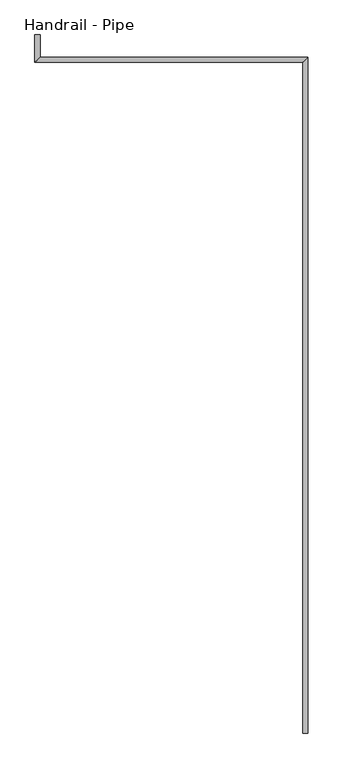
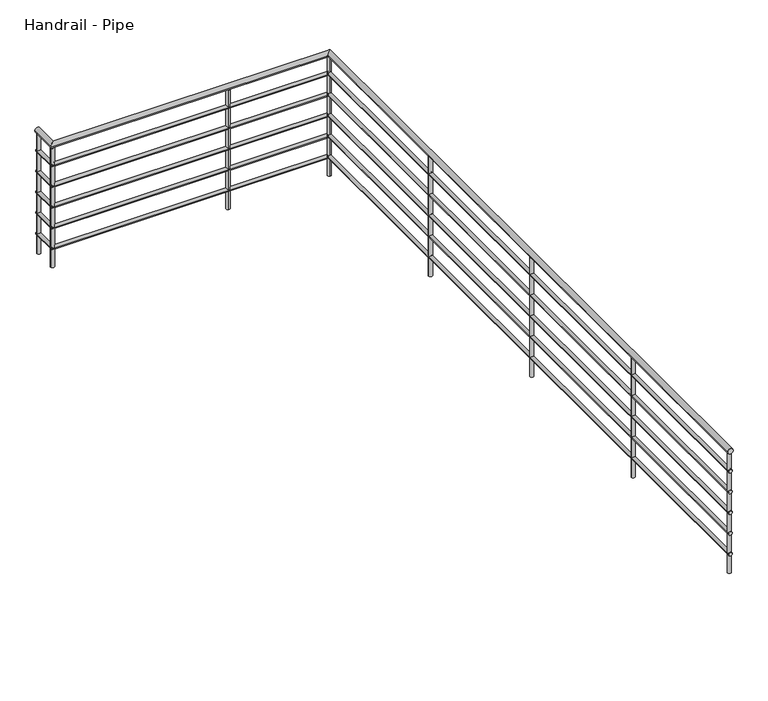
"""IFC4 building model written with IfcOpenShell, lengths in millimetres: railing geometry, Handrail - Pipe."""

from ifc_helpers import new_model, si_unit, point, frame, frame_2d, origin, origin_with_axes, place, context, project, spatial, circle_curve, ellipse_curve, trimmed, segment, composite_curve, outline, extrude, source, transform, mapped, element, save
from ifc_brep_helpers import plane_surface, cylinder_surface, advanced_brep


def handrail_pipe_65aaea4b(model_context):
    return source(origin(), model_context, "Body", "SolidModel", [
        advanced_brep(
        [(13284.4921922, 17749.6862109, 895.35), (13322.5921922, 17749.6862109, 895.35), (13322.5921922, 17590.9362109, 895.35), (13284.4921922, 17552.8362109, 895.35), (15245.312245, 17590.9362109, 895.35), (15207.212245, 17552.8362109, 895.35), (15207.212245, 12744.2987109, 895.35), (15245.312245, 12744.2987109, 895.35)],
        [
            (0, 1, circle_curve(frame((13303.5421922, 17749.6862109, 895.35), z_axis=(0.0, 1.0, 0.0), x_axis=(1.0, 0.0, 0.0)), 19.05)),
            (1, 0, circle_curve(frame((13303.5421922, 17749.6862109, 895.35), z_axis=(0.0, 1.0, 0.0), x_axis=(1.0, 0.0, 0.0)), 19.05)),
            (1, 2),
            (2, 3, ellipse_curve(frame((13303.5421922, 17571.8862109, 895.35), z_axis=(-0.707106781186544, 0.707106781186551, 0.0), x_axis=(0.707106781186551, 0.707106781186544, 0.0)), 26.9407684, 19.05)),
            (3, 0),
            (3, 2, ellipse_curve(frame((13303.5421922, 17571.8862109, 895.35), z_axis=(-0.707106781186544, 0.707106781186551, 0.0), x_axis=(0.707106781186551, 0.707106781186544, 0.0)), 26.9407684, 19.05)),
            (2, 4),
            (4, 5, ellipse_curve(frame((15226.262245, 17571.8862109, 895.35), z_axis=(-0.7071067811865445, 0.7071067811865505, 0.0), x_axis=(-0.7071067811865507, -0.7071067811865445, 0.0)), 26.9407684, 19.05)),
            (5, 3),
            (5, 4, ellipse_curve(frame((15226.262245, 17571.8862109, 895.35), z_axis=(-0.7071067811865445, 0.7071067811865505, 0.0), x_axis=(-0.7071067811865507, -0.7071067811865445, 0.0)), 26.9407684, 19.05)),
            (6, 7, circle_curve(frame((15226.262245, 12744.2987109, 895.35), z_axis=(0.0, -1.0, 0.0), x_axis=(1.0, 0.0, 0.0)), 19.05)),
            (7, 6, circle_curve(frame((15226.262245, 12744.2987109, 895.35), z_axis=(0.0, -1.0, 0.0), x_axis=(1.0, 0.0, 0.0)), 19.05)),
            (4, 7),
            (6, 5),
        ],
        [
            plane_surface(frame((13303.5421922, 17749.6862109, 914.4), z_axis=(0.0, 1.0, 0.0), x_axis=(0.0, 0.0, -1.0))),
            cylinder_surface(frame((13303.5421922, 17749.6862109, 895.35), z_axis=(0.0, 1.0, 0.0), x_axis=(1.0, 0.0, 0.0)), 19.05),
            cylinder_surface(frame((13303.5421922, 17571.8862109, 895.35), z_axis=(-1.0, 0.0, 0.0), x_axis=(0.0, 1.0, 0.0)), 19.05),
            plane_surface(frame((15226.262245, 12744.2987109, 914.4), z_axis=(0.0, -1.0, 0.0), x_axis=(0.0, 0.0, -1.0))),
            cylinder_surface(frame((15226.262245, 17571.8862109, 895.35), z_axis=(0.0, 1.0, 0.0), x_axis=(1.0, 0.0, 0.0)), 19.05),
        ],
        [
            (0, [[1, 2]]),
            (1, [[-2, 3, 4, 5]]),
            (1, [[-1, -5, 6, -3]]),
            (2, [[-4, 7, 8, 9]]),
            (2, [[-6, -9, 10, -7]]),
            (3, [[11, 12]]),
            (4, [[-8, 13, -11, 14]]),
            (4, [[-10, -14, -12, -13]]),
        ],
    ),
        advanced_brep(
        [(13290.8421922, 17749.6862109, 749.3), (13316.2421922, 17749.6862109, 749.3), (13316.2421922, 17584.5862109, 749.3), (13290.8421922, 17559.1862109, 749.3), (15238.962245, 17584.5862109, 749.3), (15213.562245, 17559.1862109, 749.3), (15213.562245, 12744.2987109, 749.3), (15238.962245, 12744.2987109, 749.3)],
        [
            (0, 1, circle_curve(frame((13303.5421922, 17749.6862109, 749.3), z_axis=(0.0, 1.0, 0.0), x_axis=(1.0, 0.0, 0.0)), 12.7)),
            (1, 0, circle_curve(frame((13303.5421922, 17749.6862109, 749.3), z_axis=(0.0, 1.0, 0.0), x_axis=(1.0, 0.0, 0.0)), 12.7)),
            (1, 2),
            (2, 3, ellipse_curve(frame((13303.5421922, 17571.8862109, 749.3), z_axis=(-0.707106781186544, 0.707106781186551, 0.0), x_axis=(0.707106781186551, 0.707106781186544, 0.0)), 17.9605122, 12.7)),
            (3, 0),
            (3, 2, ellipse_curve(frame((13303.5421922, 17571.8862109, 749.3), z_axis=(-0.707106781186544, 0.707106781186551, 0.0), x_axis=(0.707106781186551, 0.707106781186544, 0.0)), 17.9605122, 12.7)),
            (2, 4),
            (4, 5, ellipse_curve(frame((15226.262245, 17571.8862109, 749.3), z_axis=(-0.7071067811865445, 0.7071067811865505, 0.0), x_axis=(-0.7071067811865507, -0.7071067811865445, 0.0)), 17.9605122, 12.7)),
            (5, 3),
            (5, 4, ellipse_curve(frame((15226.262245, 17571.8862109, 749.3), z_axis=(-0.7071067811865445, 0.7071067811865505, 0.0), x_axis=(-0.7071067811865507, -0.7071067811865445, 0.0)), 17.9605122, 12.7)),
            (6, 7, circle_curve(frame((15226.262245, 12744.2987109, 749.3), z_axis=(0.0, -1.0, 0.0), x_axis=(1.0, 0.0, 0.0)), 12.7)),
            (7, 6, circle_curve(frame((15226.262245, 12744.2987109, 749.3), z_axis=(0.0, -1.0, 0.0), x_axis=(1.0, 0.0, 0.0)), 12.7)),
            (4, 7),
            (6, 5),
        ],
        [
            plane_surface(frame((13303.5421922, 17749.6862109, 762.0), z_axis=(0.0, 1.0, 0.0), x_axis=(0.0, 0.0, -1.0))),
            cylinder_surface(frame((13303.5421922, 17749.6862109, 749.3), z_axis=(0.0, 1.0, 0.0), x_axis=(1.0, 0.0, 0.0)), 12.7),
            cylinder_surface(frame((13303.5421922, 17571.8862109, 749.3), z_axis=(-1.0, 0.0, 0.0), x_axis=(0.0, 1.0, 0.0)), 12.7),
            plane_surface(frame((15226.262245, 12744.2987109, 762.0), z_axis=(0.0, -1.0, 0.0), x_axis=(0.0, 0.0, -1.0))),
            cylinder_surface(frame((15226.262245, 17571.8862109, 749.3), z_axis=(0.0, 1.0, 0.0), x_axis=(1.0, 0.0, 0.0)), 12.7),
        ],
        [
            (0, [[1, 2]]),
            (1, [[-2, 3, 4, 5]]),
            (1, [[-1, -5, 6, -3]]),
            (2, [[-4, 7, 8, 9]]),
            (2, [[-6, -9, 10, -7]]),
            (3, [[11, 12]]),
            (4, [[-8, 13, -11, 14]]),
            (4, [[-10, -14, -12, -13]]),
        ],
    ),
        advanced_brep(
        [(13290.8421922, 17749.6862109, 596.9), (13316.2421922, 17749.6862109, 596.9), (13316.2421922, 17584.5862109, 596.9), (13290.8421922, 17559.1862109, 596.9), (15238.962245, 17584.5862109, 596.9), (15213.562245, 17559.1862109, 596.9), (15213.562245, 12744.2987109, 596.9), (15238.962245, 12744.2987109, 596.9)],
        [
            (0, 1, circle_curve(frame((13303.5421922, 17749.6862109, 596.9), z_axis=(0.0, 1.0, 0.0), x_axis=(1.0, 0.0, 0.0)), 12.7)),
            (1, 0, circle_curve(frame((13303.5421922, 17749.6862109, 596.9), z_axis=(0.0, 1.0, 0.0), x_axis=(1.0, 0.0, 0.0)), 12.7)),
            (1, 2),
            (2, 3, ellipse_curve(frame((13303.5421922, 17571.8862109, 596.9), z_axis=(-0.707106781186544, 0.707106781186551, 0.0), x_axis=(0.707106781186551, 0.707106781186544, 0.0)), 17.9605122, 12.7)),
            (3, 0),
            (3, 2, ellipse_curve(frame((13303.5421922, 17571.8862109, 596.9), z_axis=(-0.707106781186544, 0.707106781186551, 0.0), x_axis=(0.707106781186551, 0.707106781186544, 0.0)), 17.9605122, 12.7)),
            (2, 4),
            (4, 5, ellipse_curve(frame((15226.262245, 17571.8862109, 596.9), z_axis=(-0.7071067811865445, 0.7071067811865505, 0.0), x_axis=(-0.7071067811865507, -0.7071067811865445, 0.0)), 17.9605122, 12.7)),
            (5, 3),
            (5, 4, ellipse_curve(frame((15226.262245, 17571.8862109, 596.9), z_axis=(-0.7071067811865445, 0.7071067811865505, 0.0), x_axis=(-0.7071067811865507, -0.7071067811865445, 0.0)), 17.9605122, 12.7)),
            (6, 7, circle_curve(frame((15226.262245, 12744.2987109, 596.9), z_axis=(0.0, -1.0, 0.0), x_axis=(1.0, 0.0, 0.0)), 12.7)),
            (7, 6, circle_curve(frame((15226.262245, 12744.2987109, 596.9), z_axis=(0.0, -1.0, 0.0), x_axis=(1.0, 0.0, 0.0)), 12.7)),
            (4, 7),
            (6, 5),
        ],
        [
            plane_surface(frame((13303.5421922, 17749.6862109, 609.6), z_axis=(0.0, 1.0, 0.0), x_axis=(0.0, 0.0, -1.0))),
            cylinder_surface(frame((13303.5421922, 17749.6862109, 596.9), z_axis=(0.0, 1.0, 0.0), x_axis=(1.0, 0.0, 0.0)), 12.7),
            cylinder_surface(frame((13303.5421922, 17571.8862109, 596.9), z_axis=(-1.0, 0.0, 0.0), x_axis=(0.0, 1.0, 0.0)), 12.7),
            plane_surface(frame((15226.262245, 12744.2987109, 609.6), z_axis=(0.0, -1.0, 0.0), x_axis=(0.0, 0.0, -1.0))),
            cylinder_surface(frame((15226.262245, 17571.8862109, 596.9), z_axis=(0.0, 1.0, 0.0), x_axis=(1.0, 0.0, 0.0)), 12.7),
        ],
        [
            (0, [[1, 2]]),
            (1, [[-2, 3, 4, 5]]),
            (1, [[-1, -5, 6, -3]]),
            (2, [[-4, 7, 8, 9]]),
            (2, [[-6, -9, 10, -7]]),
            (3, [[11, 12]]),
            (4, [[-8, 13, -11, 14]]),
            (4, [[-10, -14, -12, -13]]),
        ],
    ),
        advanced_brep(
        [(13290.8421922, 17749.6862109, 444.5), (13316.2421922, 17749.6862109, 444.5), (13316.2421922, 17584.5862109, 444.5), (13290.8421922, 17559.1862109, 444.5), (15238.962245, 17584.5862109, 444.5), (15213.562245, 17559.1862109, 444.5), (15213.562245, 12744.2987109, 444.5), (15238.962245, 12744.2987109, 444.5)],
        [
            (0, 1, circle_curve(frame((13303.5421922, 17749.6862109, 444.5), z_axis=(0.0, 1.0, 0.0), x_axis=(1.0, 0.0, 0.0)), 12.7)),
            (1, 0, circle_curve(frame((13303.5421922, 17749.6862109, 444.5), z_axis=(0.0, 1.0, 0.0), x_axis=(1.0, 0.0, 0.0)), 12.7)),
            (1, 2),
            (2, 3, ellipse_curve(frame((13303.5421922, 17571.8862109, 444.5), z_axis=(-0.707106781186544, 0.707106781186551, 0.0), x_axis=(0.707106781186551, 0.707106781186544, 0.0)), 17.9605122, 12.7)),
            (3, 0),
            (3, 2, ellipse_curve(frame((13303.5421922, 17571.8862109, 444.5), z_axis=(-0.707106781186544, 0.707106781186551, 0.0), x_axis=(0.707106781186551, 0.707106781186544, 0.0)), 17.9605122, 12.7)),
            (2, 4),
            (4, 5, ellipse_curve(frame((15226.262245, 17571.8862109, 444.5), z_axis=(-0.7071067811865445, 0.7071067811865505, 0.0), x_axis=(-0.7071067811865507, -0.7071067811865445, 0.0)), 17.9605122, 12.7)),
            (5, 3),
            (5, 4, ellipse_curve(frame((15226.262245, 17571.8862109, 444.5), z_axis=(-0.7071067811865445, 0.7071067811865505, 0.0), x_axis=(-0.7071067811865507, -0.7071067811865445, 0.0)), 17.9605122, 12.7)),
            (6, 7, circle_curve(frame((15226.262245, 12744.2987109, 444.5), z_axis=(0.0, -1.0, 0.0), x_axis=(1.0, 0.0, 0.0)), 12.7)),
            (7, 6, circle_curve(frame((15226.262245, 12744.2987109, 444.5), z_axis=(0.0, -1.0, 0.0), x_axis=(1.0, 0.0, 0.0)), 12.7)),
            (4, 7),
            (6, 5),
        ],
        [
            plane_surface(frame((13303.5421922, 17749.6862109, 457.2), z_axis=(0.0, 1.0, 0.0), x_axis=(0.0, 0.0, -1.0))),
            cylinder_surface(frame((13303.5421922, 17749.6862109, 444.5), z_axis=(0.0, 1.0, 0.0), x_axis=(1.0, 0.0, 0.0)), 12.7),
            cylinder_surface(frame((13303.5421922, 17571.8862109, 444.5), z_axis=(-1.0, 0.0, 0.0), x_axis=(0.0, 1.0, 0.0)), 12.7),
            plane_surface(frame((15226.262245, 12744.2987109, 457.2), z_axis=(0.0, -1.0, 0.0), x_axis=(0.0, 0.0, -1.0))),
            cylinder_surface(frame((15226.262245, 17571.8862109, 444.5), z_axis=(0.0, 1.0, 0.0), x_axis=(1.0, 0.0, 0.0)), 12.7),
        ],
        [
            (0, [[1, 2]]),
            (1, [[-2, 3, 4, 5]]),
            (1, [[-1, -5, 6, -3]]),
            (2, [[-4, 7, 8, 9]]),
            (2, [[-6, -9, 10, -7]]),
            (3, [[11, 12]]),
            (4, [[-8, 13, -11, 14]]),
            (4, [[-10, -14, -12, -13]]),
        ],
    ),
        advanced_brep(
        [(13290.8421922, 17749.6862109, 292.1), (13316.2421922, 17749.6862109, 292.1), (13316.2421922, 17584.5862109, 292.1), (13290.8421922, 17559.1862109, 292.1), (15238.962245, 17584.5862109, 292.1), (15213.562245, 17559.1862109, 292.1), (15213.562245, 12744.2987109, 292.1), (15238.962245, 12744.2987109, 292.1)],
        [
            (0, 1, circle_curve(frame((13303.5421922, 17749.6862109, 292.1), z_axis=(0.0, 1.0, 0.0), x_axis=(1.0, 0.0, 0.0)), 12.7)),
            (1, 0, circle_curve(frame((13303.5421922, 17749.6862109, 292.1), z_axis=(0.0, 1.0, 0.0), x_axis=(1.0, 0.0, 0.0)), 12.7)),
            (1, 2),
            (2, 3, ellipse_curve(frame((13303.5421922, 17571.8862109, 292.1), z_axis=(-0.707106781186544, 0.707106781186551, 0.0), x_axis=(0.707106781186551, 0.707106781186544, 0.0)), 17.9605122, 12.7)),
            (3, 0),
            (3, 2, ellipse_curve(frame((13303.5421922, 17571.8862109, 292.1), z_axis=(-0.707106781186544, 0.707106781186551, 0.0), x_axis=(0.707106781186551, 0.707106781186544, 0.0)), 17.9605122, 12.7)),
            (2, 4),
            (4, 5, ellipse_curve(frame((15226.262245, 17571.8862109, 292.1), z_axis=(-0.7071067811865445, 0.7071067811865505, 0.0), x_axis=(-0.7071067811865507, -0.7071067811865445, 0.0)), 17.9605122, 12.7)),
            (5, 3),
            (5, 4, ellipse_curve(frame((15226.262245, 17571.8862109, 292.1), z_axis=(-0.7071067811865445, 0.7071067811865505, 0.0), x_axis=(-0.7071067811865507, -0.7071067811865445, 0.0)), 17.9605122, 12.7)),
            (6, 7, circle_curve(frame((15226.262245, 12744.2987109, 292.1), z_axis=(0.0, -1.0, 0.0), x_axis=(1.0, 0.0, 0.0)), 12.7)),
            (7, 6, circle_curve(frame((15226.262245, 12744.2987109, 292.1), z_axis=(0.0, -1.0, 0.0), x_axis=(1.0, 0.0, 0.0)), 12.7)),
            (4, 7),
            (6, 5),
        ],
        [
            plane_surface(frame((13303.5421922, 17749.6862109, 304.8), z_axis=(0.0, 1.0, 0.0), x_axis=(0.0, 0.0, -1.0))),
            cylinder_surface(frame((13303.5421922, 17749.6862109, 292.1), z_axis=(0.0, 1.0, 0.0), x_axis=(1.0, 0.0, 0.0)), 12.7),
            cylinder_surface(frame((13303.5421922, 17571.8862109, 292.1), z_axis=(-1.0, 0.0, 0.0), x_axis=(0.0, 1.0, 0.0)), 12.7),
            plane_surface(frame((15226.262245, 12744.2987109, 304.8), z_axis=(0.0, -1.0, 0.0), x_axis=(0.0, 0.0, -1.0))),
            cylinder_surface(frame((15226.262245, 17571.8862109, 292.1), z_axis=(0.0, 1.0, 0.0), x_axis=(1.0, 0.0, 0.0)), 12.7),
        ],
        [
            (0, [[1, 2]]),
            (1, [[-2, 3, 4, 5]]),
            (1, [[-1, -5, 6, -3]]),
            (2, [[-4, 7, 8, 9]]),
            (2, [[-6, -9, 10, -7]]),
            (3, [[11, 12]]),
            (4, [[-8, 13, -11, 14]]),
            (4, [[-10, -14, -12, -13]]),
        ],
    ),
        advanced_brep(
        [(13290.8421922, 17749.6862109, 139.7), (13316.2421922, 17749.6862109, 139.7), (13316.2421922, 17584.5862109, 139.7), (13290.8421922, 17559.1862109, 139.7), (15238.962245, 17584.5862109, 139.7), (15213.562245, 17559.1862109, 139.7), (15213.562245, 12744.2987109, 139.7), (15238.962245, 12744.2987109, 139.7)],
        [
            (0, 1, circle_curve(frame((13303.5421922, 17749.6862109, 139.7), z_axis=(0.0, 1.0, 0.0), x_axis=(1.0, 0.0, 0.0)), 12.7)),
            (1, 0, circle_curve(frame((13303.5421922, 17749.6862109, 139.7), z_axis=(0.0, 1.0, 0.0), x_axis=(1.0, 0.0, 0.0)), 12.7)),
            (1, 2),
            (2, 3, ellipse_curve(frame((13303.5421922, 17571.8862109, 139.7), z_axis=(-0.707106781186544, 0.707106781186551, 0.0), x_axis=(0.707106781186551, 0.707106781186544, 0.0)), 17.9605122, 12.7)),
            (3, 0),
            (3, 2, ellipse_curve(frame((13303.5421922, 17571.8862109, 139.7), z_axis=(-0.707106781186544, 0.707106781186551, 0.0), x_axis=(0.707106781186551, 0.707106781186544, 0.0)), 17.9605122, 12.7)),
            (2, 4),
            (4, 5, ellipse_curve(frame((15226.262245, 17571.8862109, 139.7), z_axis=(-0.7071067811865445, 0.7071067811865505, 0.0), x_axis=(-0.7071067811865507, -0.7071067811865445, 0.0)), 17.9605122, 12.7)),
            (5, 3),
            (5, 4, ellipse_curve(frame((15226.262245, 17571.8862109, 139.7), z_axis=(-0.7071067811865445, 0.7071067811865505, 0.0), x_axis=(-0.7071067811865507, -0.7071067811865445, 0.0)), 17.9605122, 12.7)),
            (6, 7, circle_curve(frame((15226.262245, 12744.2987109, 139.7), z_axis=(0.0, -1.0, 0.0), x_axis=(1.0, 0.0, 0.0)), 12.7)),
            (7, 6, circle_curve(frame((15226.262245, 12744.2987109, 139.7), z_axis=(0.0, -1.0, 0.0), x_axis=(1.0, 0.0, 0.0)), 12.7)),
            (4, 7),
            (6, 5),
        ],
        [
            plane_surface(frame((13303.5421922, 17749.6862109, 152.4), z_axis=(0.0, 1.0, 0.0), x_axis=(0.0, 0.0, -1.0))),
            cylinder_surface(frame((13303.5421922, 17749.6862109, 139.7), z_axis=(0.0, 1.0, 0.0), x_axis=(1.0, 0.0, 0.0)), 12.7),
            cylinder_surface(frame((13303.5421922, 17571.8862109, 139.7), z_axis=(-1.0, 0.0, 0.0), x_axis=(0.0, 1.0, 0.0)), 12.7),
            plane_surface(frame((15226.262245, 12744.2987109, 152.4), z_axis=(0.0, -1.0, 0.0), x_axis=(0.0, 0.0, -1.0))),
            cylinder_surface(frame((15226.262245, 17571.8862109, 139.7), z_axis=(0.0, 1.0, 0.0), x_axis=(1.0, 0.0, 0.0)), 12.7),
        ],
        [
            (0, [[1, 2]]),
            (1, [[-2, 3, 4, 5]]),
            (1, [[-1, -5, 6, -3]]),
            (2, [[-4, 7, 8, 9]]),
            (2, [[-6, -9, 10, -7]]),
            (3, [[11, 12]]),
            (4, [[-8, 13, -11, 14]]),
            (4, [[-10, -14, -12, -13]]),
        ],
    ),
        extrude(outline(composite_curve([segment(trimmed(circle_curve(frame_2d((15226.262245, 13914.2862109)), 12.7), [point((15213.562245, 13914.2862109))], [point((15238.962245, 13914.2862109))], False, "CARTESIAN"), True, "CONTINUOUS"), segment(trimmed(circle_curve(frame_2d((15226.262245, 13914.2862109)), 12.7), [point((15238.962245, 13914.2862109))], [point((15213.562245, 13914.2862109))], False, "CARTESIAN"), True, "CONTINUOUS")], self_intersect=False)), origin_with_axes(), (0.0, 0.0, 1.0), 876.3),
        extrude(outline(composite_curve([segment(trimmed(circle_curve(frame_2d((15226.262245, 15133.4862109)), 12.7), [point((15213.562245, 15133.4862109))], [point((15238.962245, 15133.4862109))], False, "CARTESIAN"), True, "CONTINUOUS"), segment(trimmed(circle_curve(frame_2d((15226.262245, 15133.4862109)), 12.7), [point((15238.962245, 15133.4862109))], [point((15213.562245, 15133.4862109))], False, "CARTESIAN"), True, "CONTINUOUS")], self_intersect=False)), origin_with_axes(), (0.0, 0.0, 1.0), 876.3),
        extrude(outline(composite_curve([segment(trimmed(circle_curve(frame_2d((15226.262245, 16352.6862109)), 12.7), [point((15213.562245, 16352.6862109))], [point((15238.962245, 16352.6862109))], False, "CARTESIAN"), True, "CONTINUOUS"), segment(trimmed(circle_curve(frame_2d((15226.262245, 16352.6862109)), 12.7), [point((15238.962245, 16352.6862109))], [point((15213.562245, 16352.6862109))], False, "CARTESIAN"), True, "CONTINUOUS")], self_intersect=False)), origin_with_axes(), (0.0, 0.0, 1.0), 876.3),
        extrude(outline(composite_curve([segment(trimmed(circle_curve(frame_2d((14522.7421922, 17571.8862109)), 12.7), [point((14522.7421922, 17559.1862109))], [point((14522.7421922, 17584.5862109))], False, "CARTESIAN"), True, "CONTINUOUS"), segment(trimmed(circle_curve(frame_2d((14522.7421922, 17571.8862109)), 12.7), [point((14522.7421922, 17584.5862109))], [point((14522.7421922, 17559.1862109))], False, "CARTESIAN"), True, "CONTINUOUS")], self_intersect=False)), origin_with_axes(), (0.0, 0.0, 1.0), 876.3),
        extrude(outline(composite_curve([segment(trimmed(circle_curve(frame_2d((15226.262245, 17571.8862109)), 12.7), [point((15226.262245, 17559.1862109))], [point((15226.262245, 17584.5862109))], False, "CARTESIAN"), True, "CONTINUOUS"), segment(trimmed(circle_curve(frame_2d((15226.262245, 17571.8862109)), 12.7), [point((15226.262245, 17584.5862109))], [point((15226.262245, 17559.1862109))], False, "CARTESIAN"), True, "CONTINUOUS")], self_intersect=False)), origin_with_axes(), (0.0, 0.0, 1.0), 876.3),
        extrude(outline(composite_curve([segment(trimmed(circle_curve(frame_2d((13303.5421922, 17571.8862109)), 12.7), [point((13290.8421922, 17571.8862109))], [point((13316.2421922, 17571.8862109))], False, "CARTESIAN"), True, "CONTINUOUS"), segment(trimmed(circle_curve(frame_2d((13303.5421922, 17571.8862109)), 12.7), [point((13316.2421922, 17571.8862109))], [point((13290.8421922, 17571.8862109))], False, "CARTESIAN"), True, "CONTINUOUS")], self_intersect=False)), origin_with_axes(), (0.0, 0.0, 1.0), 876.3),
        extrude(outline(composite_curve([segment(trimmed(circle_curve(frame_2d((15226.262245, 12756.9987109)), 12.7), [point((15213.562245, 12756.9987109))], [point((15238.962245, 12756.9987109))], False, "CARTESIAN"), True, "CONTINUOUS"), segment(trimmed(circle_curve(frame_2d((15226.262245, 12756.9987109)), 12.7), [point((15238.962245, 12756.9987109))], [point((15213.562245, 12756.9987109))], False, "CARTESIAN"), True, "CONTINUOUS")], self_intersect=False)), origin_with_axes(), (0.0, 0.0, 1.0), 876.3),
        extrude(outline(composite_curve([segment(trimmed(circle_curve(frame_2d((13303.5421922, 17736.9862109)), 12.7), [point((13290.8421922, 17736.9862109))], [point((13316.2421922, 17736.9862109))], False, "CARTESIAN"), True, "CONTINUOUS"), segment(trimmed(circle_curve(frame_2d((13303.5421922, 17736.9862109)), 12.7), [point((13316.2421922, 17736.9862109))], [point((13290.8421922, 17736.9862109))], False, "CARTESIAN"), True, "CONTINUOUS")], self_intersect=False)), origin_with_axes(), (0.0, 0.0, 1.0), 876.3),
    ])


if __name__ == "__main__":
    model = new_model("IFC4")
    model_context = context("Model", 3, world=origin())
    ifc_project = project(units=[si_unit("LENGTHUNIT", "METRE", prefix="MILLI")], contexts=[model_context])
    site = spatial("IfcSite", under=ifc_project)
    building = spatial("IfcBuilding", under=site)
    placement = place(None, origin())
    handrail_pipe_shape = handrail_pipe_65aaea4b(model_context)
    element("IfcRailing", 1, ObjectType="Handrail - Pipe", at=placement, inside=building, context=model_context, shape_type="MappedRepresentation", body=[
        mapped(handrail_pipe_shape, transform((0.0, 0.0, 0.0), x_axis=(1.0, 0.0, 0.0), y_axis=(0.0, 1.0, 0.0), z_axis=(0.0, 0.0, 1.0))),
    ])
    save(model, "model.ifc")
